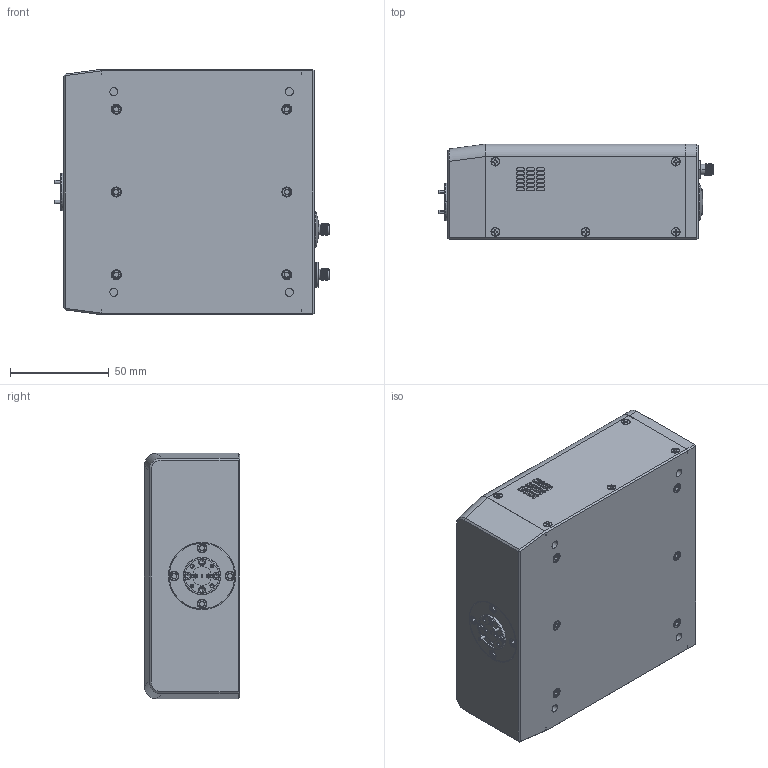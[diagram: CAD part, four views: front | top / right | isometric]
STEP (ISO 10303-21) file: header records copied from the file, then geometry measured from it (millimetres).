
FILE_DESCRIPTION (( 'STEP AP214' ), '1' );
FILE_NAME ('TC-D-A, Defeatured.STEP', '2024-05-20T19:42:17', ( '' ), ( '' ), 'SwSTEP 2.0', 'SolidWorks 2021', '' );
FILE_SCHEMA (( 'AUTOMOTIVE_DESIGN' ));
Length unit declared in the file: inch
Products named in the file (1): TC-D-A, Defeatured
Bounding box: 139.21 x 48.26 x 124.32 mm (x, y, z)
Volume: 753557.4 mm3; surface area: 61400 mm2
Topology: 9 solids, 10 shells, 1441 faces, 3642 edges, 2338 vertices
Faces by surface type: plane 759, cylinder 411, cone 262, bspline 6, torus 2, sphere 1
Entity records: 62280 total; most frequent: CARTESIAN_POINT 10670, ORIENTED_EDGE 7240, DIRECTION 6936, EDGE_CURVE 3620, AXIS2_PLACEMENT_3D 2517, VERTEX_POINT 2337, VECTOR 1902, LINE 1902
